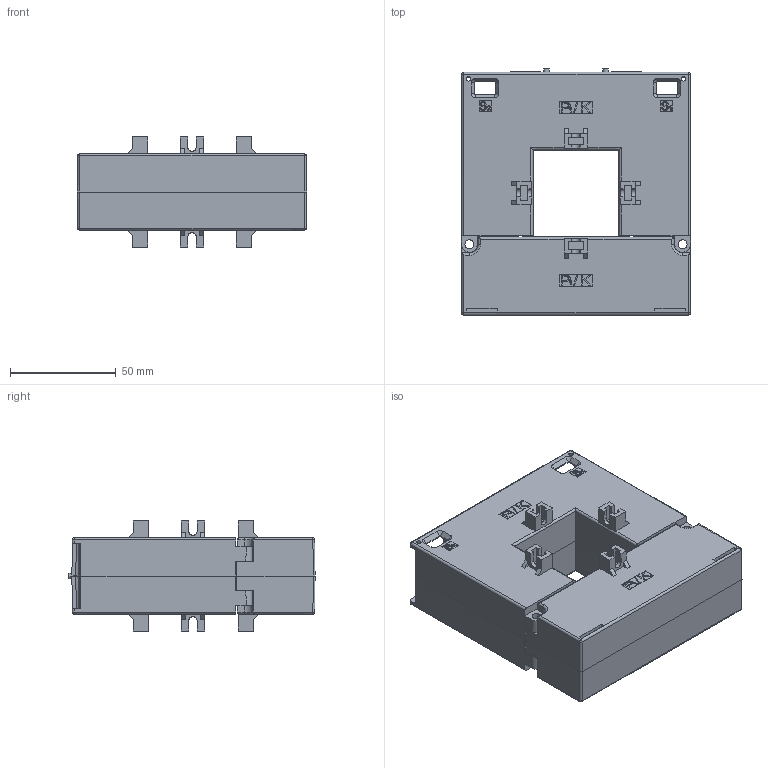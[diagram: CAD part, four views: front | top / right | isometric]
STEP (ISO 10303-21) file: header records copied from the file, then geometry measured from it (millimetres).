
FILE_DESCRIPTION(/* description */ (''),/* implementation_level */ '2;1');
FILE_NAME(/* name */ 'PL35准确文件.stp',/* time_stamp */ '2022-09-23T13:04:36+08:00',/* author */ (''),/* organization */ (''),/* preprocessor_version */ 'ST-DEVELOPER v18.102',/* originating_system */ 'SIEMENS PLM Software NX2206.1700',/* authorisation */ '');
FILE_SCHEMA (('AUTOMOTIVE_DESIGN { 1 0 10303 214 3 1 1 1 }'));
Length unit declared in the file: millimetre
Products named in the file (1): PL35准确文件
Bounding box: 108.31 x 116.22 x 52 mm (x, y, z)
Volume: 225056.6 mm3; surface area: 125979.3 mm2
Topology: 6 solids, 6 shells, 1416 faces, 3898 edges, 2558 vertices
Faces by surface type: plane 1012, cylinder 196, extrusion 156, cone 24, bspline 24, torus 4
Full cylindrical faces by diameter (mm): 1.006 x4, 1.71 x4, 4.2 x8, 5.4 x2, 5.6 x2
Entity records: 46318 total; most frequent: CARTESIAN_POINT 10903, ORIENTED_EDGE 7708, DIRECTION 6498, EDGE_CURVE 3854, VECTOR 3112, LINE 2956, VERTEX_POINT 2554, AXIS2_PLACEMENT_3D 1693
